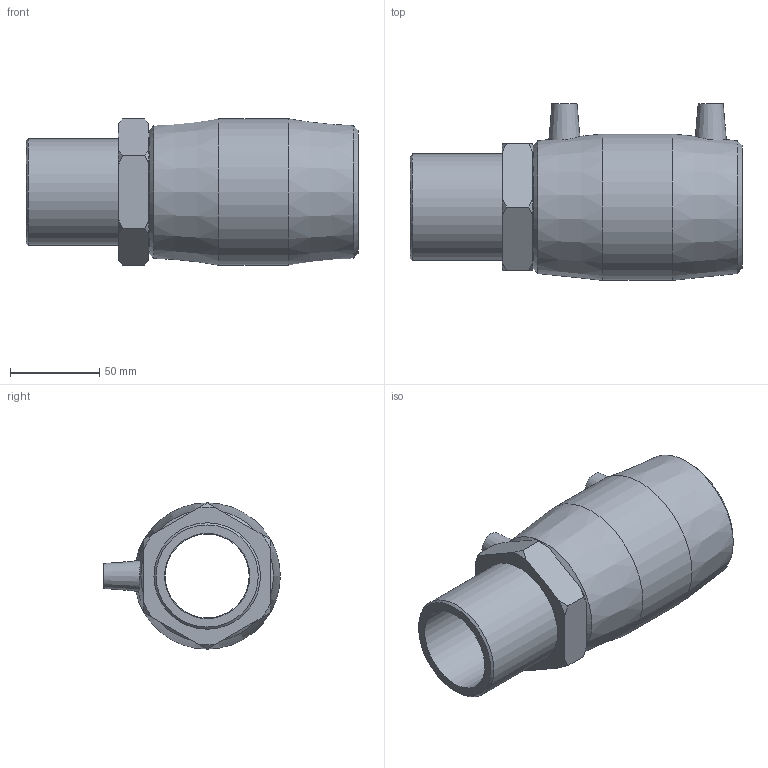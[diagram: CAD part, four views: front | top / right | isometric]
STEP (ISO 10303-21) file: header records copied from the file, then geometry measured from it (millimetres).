
FILE_DESCRIPTION(/* description */ ('PLASSON Male Transition Coupler 63 x 2"'),/* implementation_level */ '2;1');
FILE_NAME(/* name */ 'C:\Dropbox\KIMPROJECTS-Inventor\99-16-3568-Processing\ElectroFusion Fittings\02.02.20\492104\492104063020N.ipt.stp',/* time_stamp */ '2020-02-02T12:19:09+02:00',/* author */ ('KIM'),/* organization */ (''),/* preprocessor_version */ 'ST-DEVELOPER v15.6',/* originating_system */ 'Autodesk Inventor 2015',/* authorisation */ '');
FILE_SCHEMA (('AUTOMOTIVE_DESIGN { 1 0 10303 214 3 1 1 }'));
Length unit declared in the file: millimetre
Products named in the file (1): 492104063020N
Bounding box: 186 x 99 x 82 mm (x, y, z)
Volume: 394778.8 mm3; surface area: 87142 mm2
Topology: 1 solids, 2 shells, 54 faces, 118 edges, 77 vertices
Faces by surface type: plane 21, cone 21, cylinder 12
Full cylindrical faces by diameter (mm): 4 x2, 10 x2, 47 x1, 47.691 x1, 59.614 x1, 63 x4, 82 x1
Entity records: 1386 total; most frequent: CARTESIAN_POINT 329, DIRECTION 218, ORIENTED_EDGE 178, AXIS2_PLACEMENT_3D 100, EDGE_LOOP 90, EDGE_CURVE 89, VERTEX_POINT 71, FACE_OUTER_BOUND 54
